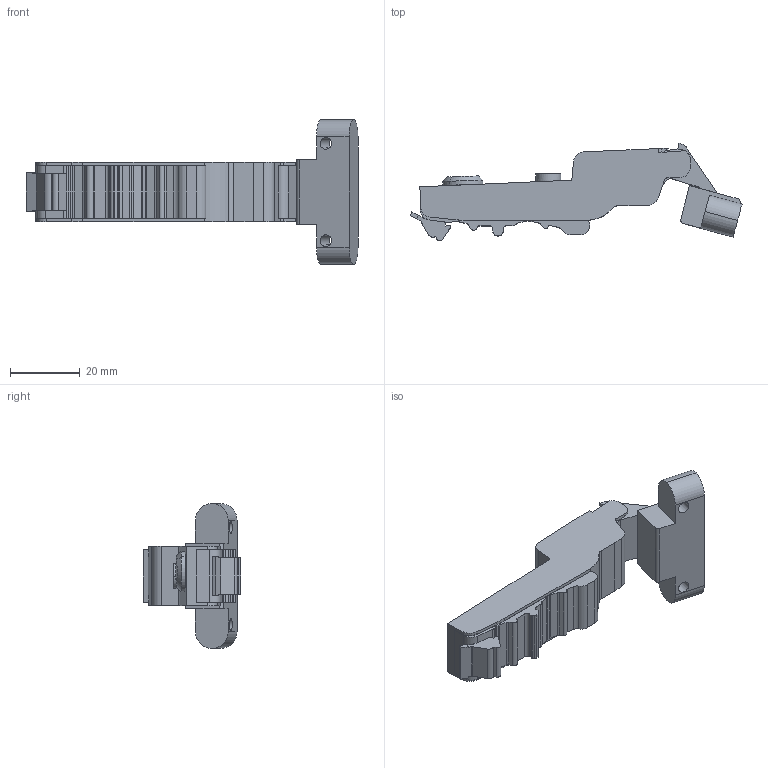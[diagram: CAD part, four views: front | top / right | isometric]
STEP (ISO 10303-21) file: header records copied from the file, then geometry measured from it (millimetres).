
FILE_DESCRIPTION (( 'STEP AP203' ), '1' );
FILE_NAME ('C82B678FA-DTC 3D open.STEP', '2025-07-21T02:46:03', ( '微软用户' ), ( '微软中国' ), 'SwSTEP 2.0', 'SolidWorks 2021', '' );
FILE_SCHEMA (( 'CONFIG_CONTROL_DESIGN' ));
Length unit declared in the file: millimetre
Products named in the file (1): C82B678FA-DTC 3D open
Bounding box: 95.52 x 28.09 x 41.6 mm (x, y, z)
Volume: 24187.3 mm3; surface area: 8289 mm2
Topology: 1 solids, 1 shells, 201 faces, 583 edges, 387 vertices
Faces by surface type: plane 106, cylinder 83, torus 8, cone 4
Entity records: 6877 total; most frequent: CARTESIAN_POINT 1407, ORIENTED_EDGE 1166, DIRECTION 1117, EDGE_CURVE 583, VERTEX_POINT 387, LINE 381, VECTOR 381, AXIS2_PLACEMENT_3D 368
